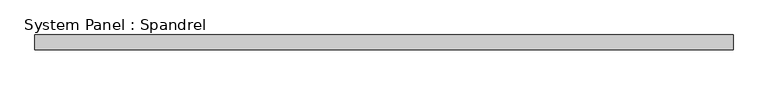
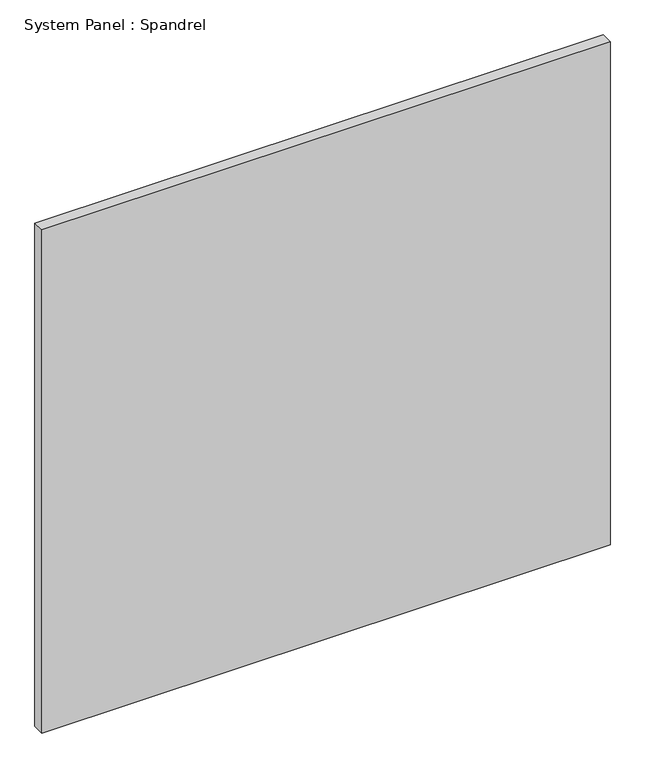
"""IFC4 building model written with IfcOpenShell, lengths in millimetres: plate geometry, System Panel : Spandrel."""

from ifc_helpers import new_model, si_unit, origin, origin_with_axes, place, context, project, spatial, polyline, outline, extrude, source, transform, mapped, element, save


def system_panel_spandrel_cb83964c(model_context):
    return source(origin(), model_context, "Body", "SweptSolid", [
        extrude(outline(polyline([(587.4999997, 0.0), (-587.4999997, 0.0), (-587.4999997, 25.0), (587.4999997, 25.0), (587.4999997, 0.0)])), origin_with_axes(), (0.0, 0.0, 1.0), 1100.0),
    ])


if __name__ == "__main__":
    model = new_model("IFC4")
    model_context = context("Model", 3, world=origin())
    ifc_project = project(units=[si_unit("LENGTHUNIT", "METRE", prefix="MILLI")], contexts=[model_context])
    site = spatial("IfcSite", under=ifc_project)
    building = spatial("IfcBuilding", under=site)
    placement = place(None, origin())
    system_panel_spandrel_shape = system_panel_spandrel_cb83964c(model_context)
    element("IfcPlate", 1, ObjectType="System Panel : Spandrel", at=placement, inside=building, context=model_context, shape_type="MappedRepresentation", body=[
        mapped(system_panel_spandrel_shape, transform((0.0, 0.0, 0.0), x_axis=(1.0, 0.0, 0.0), y_axis=(0.0, 1.0, 0.0), z_axis=(0.0, 0.0, 1.0))),
    ])
    save(model, "model.ifc")
